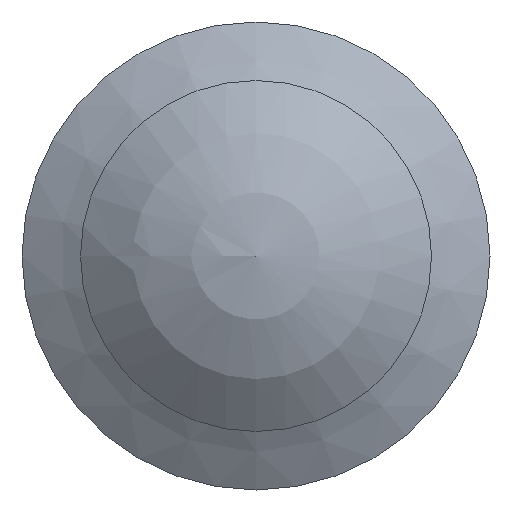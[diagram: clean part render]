
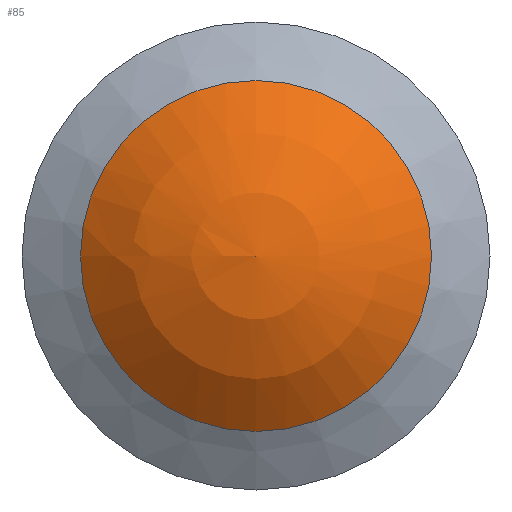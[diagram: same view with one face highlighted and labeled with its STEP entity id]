
A CAD part, front view. The second image highlights one B-rep face of the part: STEP entity #85.
In plain terms, the highlighted spherical face has radius 4.5 mm.
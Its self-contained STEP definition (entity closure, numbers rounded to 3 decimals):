
#85 = ADVANCED_FACE( '', ( #118, #119 ), #120, .T. );
#118 = FACE_BOUND( '', #156, .T. );
#119 = FACE_OUTER_BOUND( '', #157, .T. );
#120 = SPHERICAL_SURFACE( '', #158, 4.5 );
#156 = VERTEX_LOOP( '', #230 );
#157 = EDGE_LOOP( '', ( #231 ) );
#158 = AXIS2_PLACEMENT_3D( '', #232, #233, #234 );
#230 = VERTEX_POINT( '', #285 );
#231 = ORIENTED_EDGE( '', *, *, #284, .T. );
#232 = CARTESIAN_POINT( '', ( 0., 4.5, 0. ) );
#233 = DIRECTION( '', ( 0., -1., 0. ) );
#234 = DIRECTION( '', ( -1., 0., 0. ) );
#284 = EDGE_CURVE( '', #328, #328, #329, .T. );
#285 = CARTESIAN_POINT( '', ( 0., 0., 0. ) );
#328 = VERTEX_POINT( '', #387 );
#329 = CIRCLE( '', #388, 3. );
#387 = CARTESIAN_POINT( '', ( 0., 1.146, -3. ) );
#388 = AXIS2_PLACEMENT_3D( '', #428, #429, #430 );
#428 = CARTESIAN_POINT( '', ( 0., 1.146, 0. ) );
#429 = DIRECTION( '', ( 0., -1., 0. ) );
#430 = DIRECTION( '', ( 0., 0., -1. ) );
